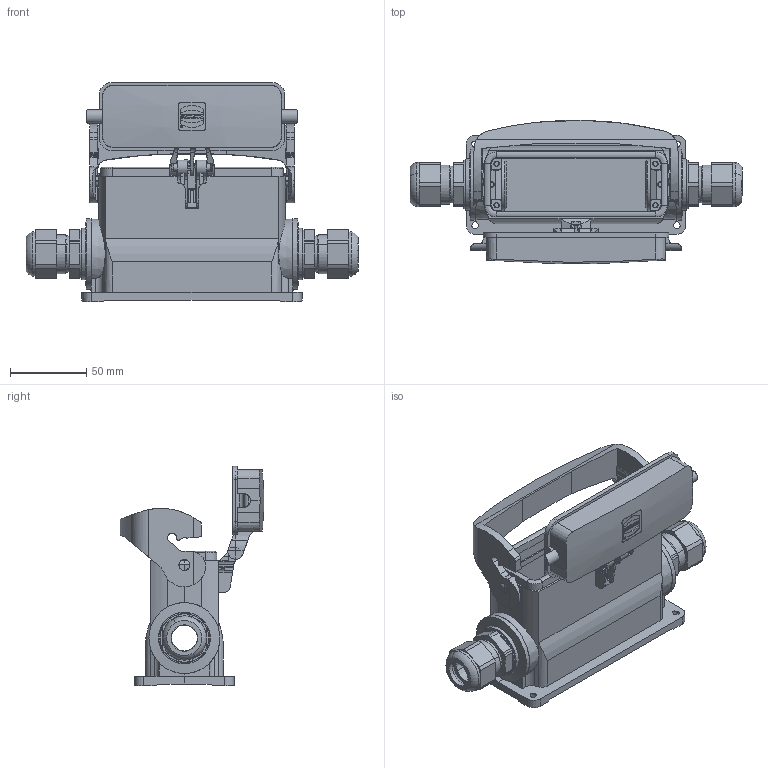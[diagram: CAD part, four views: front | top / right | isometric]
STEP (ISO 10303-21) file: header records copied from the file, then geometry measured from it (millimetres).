
FILE_DESCRIPTION(/* description */ (''),/* implementation_level */ '2;1');
FILE_NAME(/* name */ '100778633ugm000_c.stp',/* time_stamp */ '2022-03-12T07:53:24+01:00',/* author */ (''),/* organization */ (''),/* preprocessor_version */ 'ST-DEVELOPER v16.7',/* originating_system */ 'SIEMENS PLM Software NX 1911',/* authorisation */ '');
FILE_SCHEMA (('AUTOMOTIVE_DESIGN { 1 0 10303 214 3 1 1 1 }'));
Length unit declared in the file: millimetre
Products named in the file (1): 100778633ugm000_c
Bounding box: 217.3 x 93.89 x 143.5 mm (x, y, z)
Volume: 320713.5 mm3; surface area: 133152.4 mm2
Topology: 3 solids, 3 shells, 966 faces, 2661 edges, 1735 vertices
Faces by surface type: plane 600, cylinder 231, cone 92, bspline 24, torus 12, extrusion 7
Full cylindrical faces by diameter (mm): 1.006 x1, 1.477 x1, 3 x4, 3.5 x4, 4.8 x2, 7.2 x2, 25 x2, 30 x2, 46.4 x2
Entity records: 39767 total; most frequent: CARTESIAN_POINT 8505, ORIENTED_EDGE 5226, DIRECTION 4945, EDGE_CURVE 2613, VERTEX_POINT 1717, VECTOR 1651, AXIS2_PLACEMENT_3D 1647, LINE 1644
